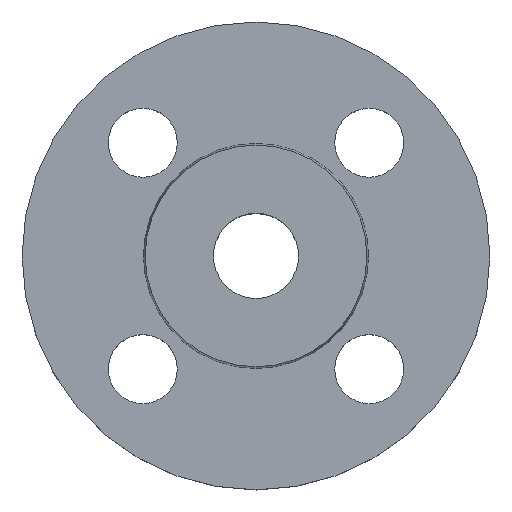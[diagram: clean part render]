
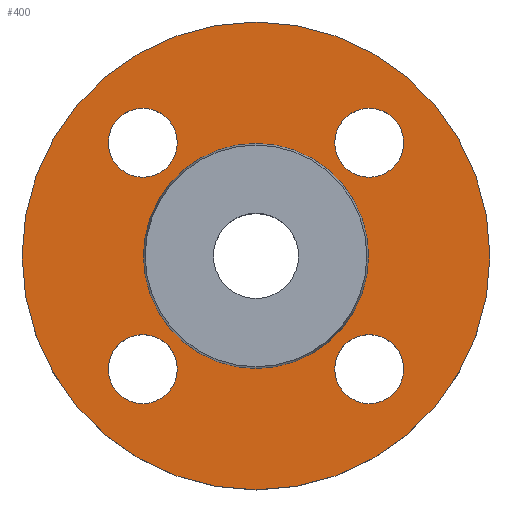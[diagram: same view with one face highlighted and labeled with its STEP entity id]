
A CAD part, top view. The second image highlights one B-rep face of the part: STEP entity #400.
In plain terms, the highlighted planar face has unit normal (0, 0, 1).
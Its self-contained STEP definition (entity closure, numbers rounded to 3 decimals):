
#8 = CIRCLE ( 'NONE', #9, 22.853 ) ;
#9 = AXIS2_PLACEMENT_3D ( 'NONE', #802, #803, #806 ) ;
#10 = CIRCLE ( 'NONE', #11, 22.853 ) ;
#11 = AXIS2_PLACEMENT_3D ( 'NONE', #807, #808, #809 ) ;
#31 = CARTESIAN_POINT ( 'NONE',  ( -22.981, -22.981, -2. ) ) ;
#44 = CIRCLE ( 'NONE', #45, 7. ) ;
#45 = AXIS2_PLACEMENT_3D ( 'NONE', #472, #473, #474 ) ;
#57 = CIRCLE ( 'NONE', #58, 7. ) ;
#58 = AXIS2_PLACEMENT_3D ( 'NONE', #490, #495, #497 ) ;
#97 = AXIS2_PLACEMENT_3D ( 'NONE', #311, #566, #427 ) ;
#98 = DIRECTION ( 'NONE',  ( 1., 0., 0. ) ) ;
#99 = DIRECTION ( 'NONE',  ( 0., 0., -1. ) ) ;
#100 = CARTESIAN_POINT ( 'NONE',  ( -22.981, -22.981, -2. ) ) ;
#109 = EDGE_CURVE ( 'NONE', #536, #762, #8, .T. ) ;
#114 = CIRCLE ( 'NONE', #115, 47.5 ) ;
#115 = AXIS2_PLACEMENT_3D ( 'NONE', #361, #360, #356 ) ;
#116 = CARTESIAN_POINT ( 'NONE',  ( -22.853, 0., -2. ) ) ;
#117 = CIRCLE ( 'NONE', #118, 7. ) ;
#118 = AXIS2_PLACEMENT_3D ( 'NONE', #354, #353, #346 ) ;
#121 = CARTESIAN_POINT ( 'NONE',  ( 29.981, -22.981, -2. ) ) ;
#122 = CARTESIAN_POINT ( 'NONE',  ( -15.981, 22.981, -2. ) ) ;
#130 = EDGE_CURVE ( 'NONE', #762, #536, #10, .T. ) ;
#137 = CARTESIAN_POINT ( 'NONE',  ( -29.981, 22.981, -2. ) ) ;
#148 = CIRCLE ( 'NONE', #149, 7. ) ;
#149 = AXIS2_PLACEMENT_3D ( 'NONE', #342, #326, #324 ) ;
#165 = CARTESIAN_POINT ( 'NONE',  ( 29.981, 22.981, -2. ) ) ;
#175 = CIRCLE ( 'NONE', #176, 7. ) ;
#176 = AXIS2_PLACEMENT_3D ( 'NONE', #562, #567, #362 ) ;
#181 = CIRCLE ( 'NONE', #182, 7. ) ;
#182 = AXIS2_PLACEMENT_3D ( 'NONE', #31, #286, #280 ) ;
#189 = CIRCLE ( 'NONE', #199, 7. ) ;
#199 = AXIS2_PLACEMENT_3D ( 'NONE', #263, #262, #261 ) ;
#209 = CIRCLE ( 'NONE', #211, 47.5 ) ;
#211 = AXIS2_PLACEMENT_3D ( 'NONE', #225, #224, #222 ) ;
#217 = CARTESIAN_POINT ( 'NONE',  ( -47.5, 0., -2. ) ) ;
#222 = DIRECTION ( 'NONE',  ( -1., 0., 0. ) ) ;
#224 = DIRECTION ( 'NONE',  ( 0., 0., -1. ) ) ;
#225 = CARTESIAN_POINT ( 'NONE',  ( 0., 0., -2. ) ) ;
#239 = CARTESIAN_POINT ( 'NONE',  ( -15.981, -22.981, -2. ) ) ;
#261 = DIRECTION ( 'NONE',  ( 1., 0., 0. ) ) ;
#262 = DIRECTION ( 'NONE',  ( 0., 0., -1. ) ) ;
#263 = CARTESIAN_POINT ( 'NONE',  ( 22.981, -22.981, -2. ) ) ;
#264 = CARTESIAN_POINT ( 'NONE',  ( 22.853, 0., -2. ) ) ;
#280 = DIRECTION ( 'NONE',  ( 1., 0., 0. ) ) ;
#286 = DIRECTION ( 'NONE',  ( 0., 0., -1. ) ) ;
#287 = EDGE_CURVE ( 'NONE', #732, #754, #44, .T. ) ;
#292 = CIRCLE ( 'NONE', #297, 7. ) ;
#296 = FACE_BOUND ( 'NONE', #756, .T. ) ;
#297 = AXIS2_PLACEMENT_3D ( 'NONE', #100, #99, #98 ) ;
#300 = FACE_BOUND ( 'NONE', #741, .T. ) ;
#301 = FACE_BOUND ( 'NONE', #421, .T. ) ;
#304 = FACE_BOUND ( 'NONE', #583, .T. ) ;
#305 = FACE_BOUND ( 'NONE', #748, .T. ) ;
#307 = FACE_OUTER_BOUND ( 'NONE', #593, .T. ) ;
#311 = CARTESIAN_POINT ( 'NONE',  ( 22.853, 0., -2. ) ) ;
#316 = CARTESIAN_POINT ( 'NONE',  ( -29.981, -22.981, -2. ) ) ;
#324 = DIRECTION ( 'NONE',  ( 1., 0., 0. ) ) ;
#326 = DIRECTION ( 'NONE',  ( 0., 0., -1. ) ) ;
#330 = CARTESIAN_POINT ( 'NONE',  ( 47.5, 0., -2. ) ) ;
#342 = CARTESIAN_POINT ( 'NONE',  ( 22.981, -22.981, -2. ) ) ;
#345 = CARTESIAN_POINT ( 'NONE',  ( 15.981, -22.981, -2. ) ) ;
#346 = DIRECTION ( 'NONE',  ( 1., 0., 0. ) ) ;
#352 = CARTESIAN_POINT ( 'NONE',  ( 15.981, 22.981, -2. ) ) ;
#353 = DIRECTION ( 'NONE',  ( 0., 0., -1. ) ) ;
#354 = CARTESIAN_POINT ( 'NONE',  ( 22.981, 22.981, -2. ) ) ;
#355 = EDGE_CURVE ( 'NONE', #417, #652, #57, .T. ) ;
#356 = DIRECTION ( 'NONE',  ( -1., 0., 0. ) ) ;
#360 = DIRECTION ( 'NONE',  ( 0., 0., -1. ) ) ;
#361 = CARTESIAN_POINT ( 'NONE',  ( 0., 0., -2. ) ) ;
#362 = DIRECTION ( 'NONE',  ( 1., 0., 0. ) ) ;
#400 = ADVANCED_FACE ( 'NONE', ( #300, #304, #301, #305, #296, #307 ), #564, .T. ) ;
#401 = EDGE_CURVE ( 'NONE', #591, #425, #114, .T. ) ;
#405 = EDGE_CURVE ( 'NONE', #652, #417, #117, .T. ) ;
#413 = VERTEX_POINT ( 'NONE', #345 ) ;
#414 = VERTEX_POINT ( 'NONE', #316 ) ;
#417 = VERTEX_POINT ( 'NONE', #352 ) ;
#421 = EDGE_LOOP ( 'NONE', ( #701, #702 ) ) ;
#425 = VERTEX_POINT ( 'NONE', #330 ) ;
#427 = DIRECTION ( 'NONE',  ( 1., 0., 0. ) ) ;
#472 = CARTESIAN_POINT ( 'NONE',  ( -22.981, 22.981, -2. ) ) ;
#473 = DIRECTION ( 'NONE',  ( 0., 0., -1. ) ) ;
#474 = DIRECTION ( 'NONE',  ( 1., 0., 0. ) ) ;
#489 = EDGE_CURVE ( 'NONE', #758, #413, #148, .T. ) ;
#490 = CARTESIAN_POINT ( 'NONE',  ( 22.981, 22.981, -2. ) ) ;
#495 = DIRECTION ( 'NONE',  ( 0., 0., -1. ) ) ;
#497 = DIRECTION ( 'NONE',  ( 1., 0., 0. ) ) ;
#513 = EDGE_CURVE ( 'NONE', #754, #732, #175, .T. ) ;
#525 = EDGE_CURVE ( 'NONE', #574, #414, #181, .T. ) ;
#536 = VERTEX_POINT ( 'NONE', #264 ) ;
#554 = EDGE_CURVE ( 'NONE', #413, #758, #189, .T. ) ;
#562 = CARTESIAN_POINT ( 'NONE',  ( -22.981, 22.981, -2. ) ) ;
#564 = PLANE ( 'NONE',  #97 ) ;
#566 = DIRECTION ( 'NONE',  ( 0., 0., 1. ) ) ;
#567 = DIRECTION ( 'NONE',  ( 0., 0., -1. ) ) ;
#574 = VERTEX_POINT ( 'NONE', #239 ) ;
#583 = EDGE_LOOP ( 'NONE', ( #699, #700 ) ) ;
#589 = EDGE_CURVE ( 'NONE', #425, #591, #209, .T. ) ;
#591 = VERTEX_POINT ( 'NONE', #217 ) ;
#593 = EDGE_LOOP ( 'NONE', ( #707, #708 ) ) ;
#652 = VERTEX_POINT ( 'NONE', #165 ) ;
#697 = ORIENTED_EDGE ( 'NONE', *, *, #489, .T. ) ;
#698 = ORIENTED_EDGE ( 'NONE', *, *, #554, .T. ) ;
#699 = ORIENTED_EDGE ( 'NONE', *, *, #525, .T. ) ;
#700 = ORIENTED_EDGE ( 'NONE', *, *, #813, .T. ) ;
#701 = ORIENTED_EDGE ( 'NONE', *, *, #513, .T. ) ;
#702 = ORIENTED_EDGE ( 'NONE', *, *, #287, .T. ) ;
#703 = ORIENTED_EDGE ( 'NONE', *, *, #405, .T. ) ;
#704 = ORIENTED_EDGE ( 'NONE', *, *, #355, .T. ) ;
#705 = ORIENTED_EDGE ( 'NONE', *, *, #130, .T. ) ;
#706 = ORIENTED_EDGE ( 'NONE', *, *, #109, .T. ) ;
#707 = ORIENTED_EDGE ( 'NONE', *, *, #589, .F. ) ;
#708 = ORIENTED_EDGE ( 'NONE', *, *, #401, .F. ) ;
#732 = VERTEX_POINT ( 'NONE', #137 ) ;
#741 = EDGE_LOOP ( 'NONE', ( #697, #698 ) ) ;
#748 = EDGE_LOOP ( 'NONE', ( #703, #704 ) ) ;
#754 = VERTEX_POINT ( 'NONE', #122 ) ;
#756 = EDGE_LOOP ( 'NONE', ( #705, #706 ) ) ;
#758 = VERTEX_POINT ( 'NONE', #121 ) ;
#762 = VERTEX_POINT ( 'NONE', #116 ) ;
#802 = CARTESIAN_POINT ( 'NONE',  ( 0., 0., -2. ) ) ;
#803 = DIRECTION ( 'NONE',  ( 0., 0., -1. ) ) ;
#806 = DIRECTION ( 'NONE',  ( -1., 0., 0. ) ) ;
#807 = CARTESIAN_POINT ( 'NONE',  ( 0., 0., -2. ) ) ;
#808 = DIRECTION ( 'NONE',  ( 0., 0., -1. ) ) ;
#809 = DIRECTION ( 'NONE',  ( -1., 0., 0. ) ) ;
#813 = EDGE_CURVE ( 'NONE', #414, #574, #292, .T. ) ;
